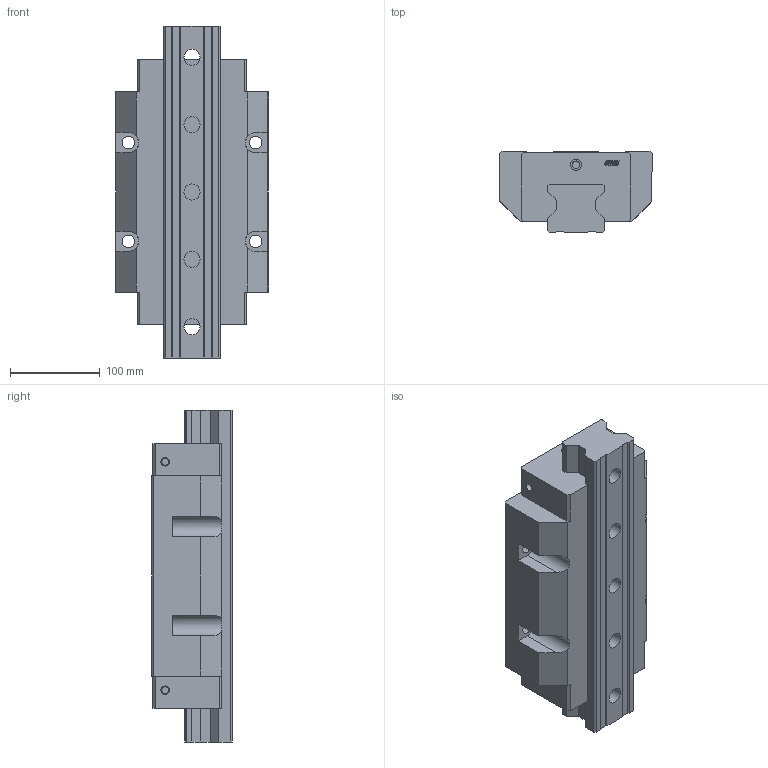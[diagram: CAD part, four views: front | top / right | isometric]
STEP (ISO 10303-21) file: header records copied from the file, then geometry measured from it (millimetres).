
FILE_DESCRIPTION(/* description */ (''),/* implementation_level */ '2;1');
FILE_NAME(/* name */ 'SRW65HC.stp',/* time_stamp */ '2022-01-22T15:28:46+08:00',/* author */ (''),/* organization */ (''),/* preprocessor_version */ 'ST-DEVELOPER v15',/* originating_system */ 'SIEMENS PLM Software NX 8.5',/* authorisation */ '');
FILE_SCHEMA (('CONFIG_CONTROL_DESIGN'));
Length unit declared in the file: millimetre
Products named in the file (1): _model1
Bounding box: 170 x 90 x 370 mm (x, y, z)
Volume: 3696115 mm3; surface area: 310614.3 mm2
Topology: 2 solids, 2 shells, 265 faces, 793 edges, 553 vertices
Faces by surface type: plane 140, extrusion 76, cylinder 30, cone 19
Full cylindrical faces by diameter (mm): 8.5 x2, 12.5 x2, 14 x6, 18 x5, 23 x2, 26 x5
Entity records: 9535 total; most frequent: CARTESIAN_POINT 2595, ORIENTED_EDGE 1480, DIRECTION 1201, EDGE_CURVE 740, VERTEX_POINT 541, VECTOR 487, LINE 411, AXIS2_PLACEMENT_3D 357
